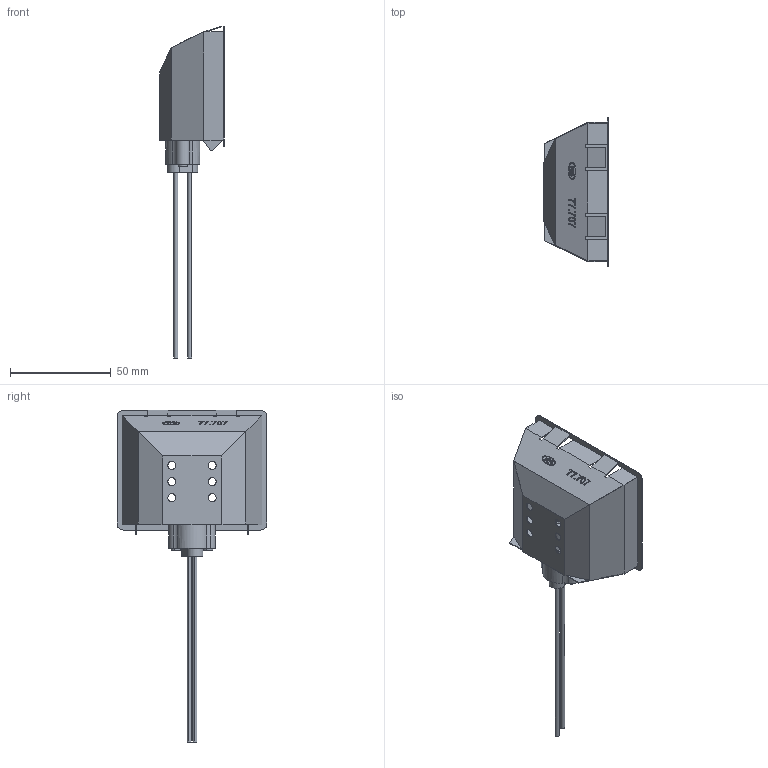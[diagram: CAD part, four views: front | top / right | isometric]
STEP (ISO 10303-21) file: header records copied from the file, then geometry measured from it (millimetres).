
FILE_DESCRIPTION((' '),'1');
FILE_NAME('00CYK03Y05.stp','2013-10-23 T09:57:12',(''),(''),'STEP Interface 2013.192 by CT CoreTechnologie','3D_Evolution2013.192 by CT CoreTechnologie','');
FILE_SCHEMA(('AP203_CONFIGURATION_CONTROLLED_3D_DESIGN_OF_MECHANICAL_PARTS_AND_ASSEMBLIES_MIM_LF'));
Length unit declared in the file: millimetre
Products named in the file (4): 00CYK03Y05; 00CYK03Y05-1; 00CYK03Y05-2; 00CYK03Y05-3
Assembly tree (3 placements, depth 2):
  00CYK03Y05
    00CYK03Y05-1
    00CYK03Y05-2
    00CYK03Y05-3
Bounding box: 31.9 x 74.2 x 164.48 mm (x, y, z)
Volume: 9335.6 mm3; surface area: 23407.3 mm2
Topology: 3 solids, 3 shells, 280 faces, 716 edges, 472 vertices
Faces by surface type: plane 163, cylinder 87, bspline 30
Entity records: 11357 total; most frequent: CARTESIAN_POINT 2128, ORIENTED_EDGE 1432, DIRECTION 1418, EDGE_CURVE 716, VECTOR 474, LINE 474, AXIS2_PLACEMENT_3D 472, VERTEX_POINT 472
